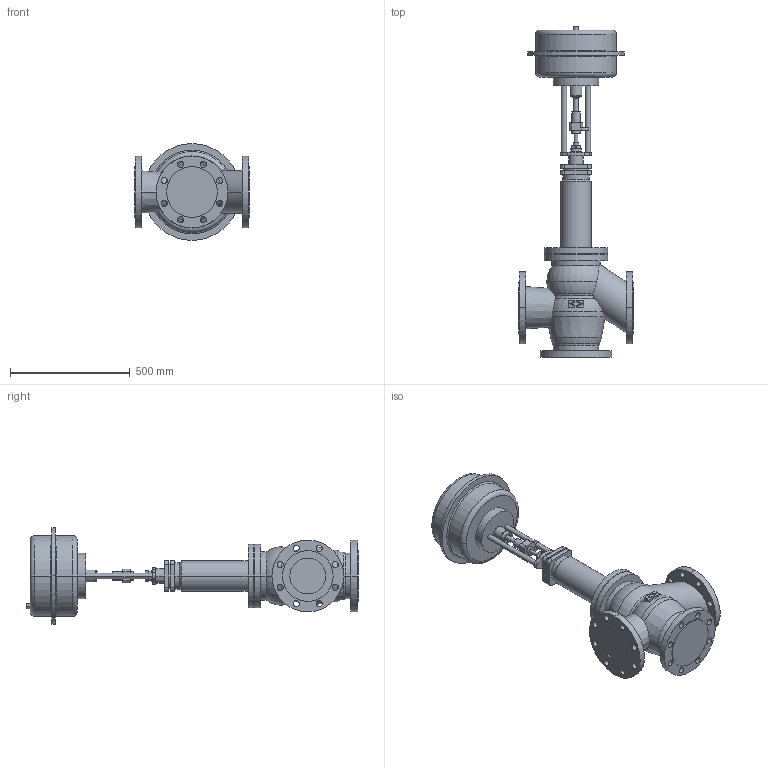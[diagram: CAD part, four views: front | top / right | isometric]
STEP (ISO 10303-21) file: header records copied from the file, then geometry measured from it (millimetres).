
FILE_DESCRIPTION(('OneSpaceDesigner STEP Export'),'2;1');
FILE_NAME('c000000439.stp','2006-09-21T 8:27:10',(''),(''),'OneSpace Designer STEP processor for AP214 (Solid Model)','OneSpace Designer 13.20A 18-Aug-2005 (C) CoCreate Software GmbH','');
FILE_SCHEMA(('AUTOMOTIVE_DESIGN { 1 0 10303 214 1 1 1 1 }'));
Length unit declared in the file: millimetre
Products named in the file (2): 1; 2
Bounding box: 480 x 1389.2 x 405 mm (x, y, z)
Volume: 53182283.4 mm3; surface area: 1711508.4 mm2
Topology: 2 solids, 2 shells, 257 faces, 631 edges, 413 vertices
Faces by surface type: cylinder 130, plane 93, torus 26, cone 8
Entity records: 7018 total; most frequent: CARTESIAN_POINT 1369, ORIENTED_EDGE 1262, DIRECTION 1030, EDGE_CURVE 631, VERTEX_POINT 413, AXIS2_PLACEMENT_3D 378, EDGE_LOOP 340, VECTOR 274
